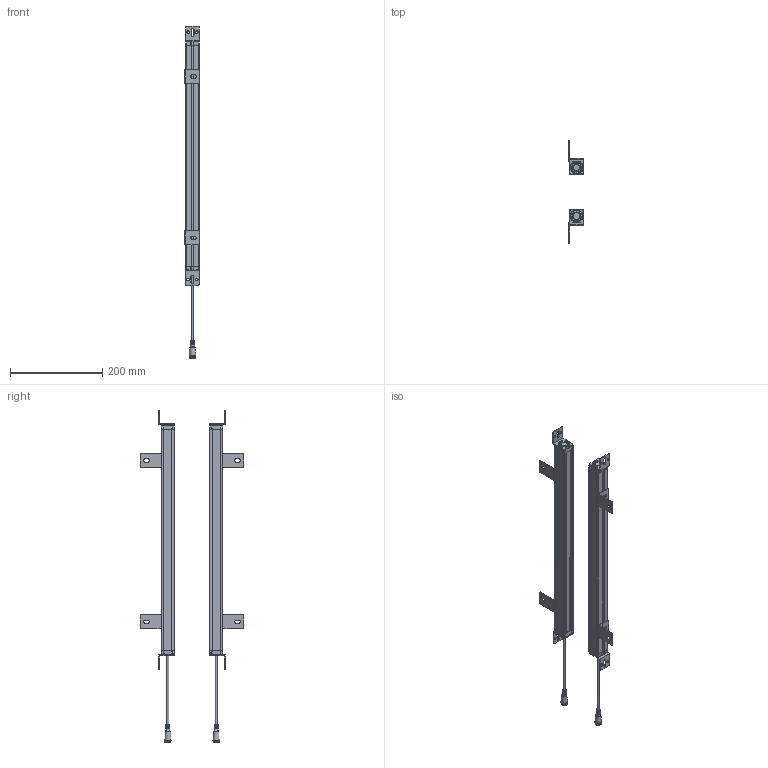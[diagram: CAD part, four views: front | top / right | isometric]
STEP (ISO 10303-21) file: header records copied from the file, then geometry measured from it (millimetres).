
FILE_DESCRIPTION(/* description */ (''),/* implementation_level */ '2;1');
FILE_NAME(/* name */ '1240（29x30）_stp_stp.stp',/* time_stamp */ '2023-04-28T10:24:33+08:00',/* author */ (''),/* organization */ (''),/* preprocessor_version */ 'ST-DEVELOPER v16.7',/* originating_system */ 'SIEMENS PLM Software NX 12.0',/* authorisation */ '');
FILE_SCHEMA (('AUTOMOTIVE_DESIGN { 1 0 10303 214 3 1 1 1 }'));
Products named in the file (1): 1240（29x30）_stp_stp_stp
Bounding box: 32.03 x 223.99 x 721 mm (x, y, z)
Volume: 337894.9 mm3; surface area: 351562.6 mm2
Topology: 34 solids, 34 shells, 1610 faces, 4267 edges, 2771 vertices
Faces by surface type: plane 750, cylinder 648, bspline 88, sphere 36, cone 36, torus 32, extrusion 20
Full cylindrical faces by diameter (mm): 1.533 x6, 4.4 x4, 9 x2, 12.5 x2
Entity records: 56427 total; most frequent: CARTESIAN_POINT 16064, DIRECTION 8330, ORIENTED_EDGE 8324, EDGE_CURVE 4162, AXIS2_PLACEMENT_3D 2918, VERTEX_POINT 2696, VECTOR 2494, LINE 2474
